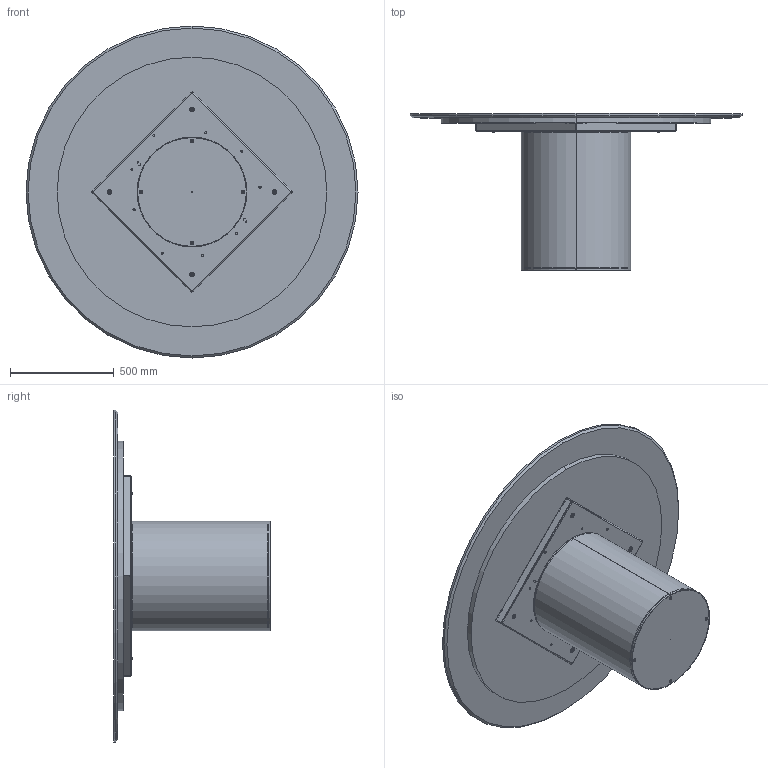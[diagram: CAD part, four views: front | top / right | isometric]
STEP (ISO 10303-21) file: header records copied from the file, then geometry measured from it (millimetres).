
FILE_DESCRIPTION (( 'STEP AP203' ), '1' );
FILE_NAME ('CI05M.STEP', '2024-08-08T06:59:23', ( '' ), ( '' ), 'SwSTEP 2.0', 'SolidWorks 2022', '' );
FILE_SCHEMA (( 'CONFIG_CONTROL_DESIGN' ));
Length unit declared in the file: millimetre
Products named in the file (14): TTAV0801-02-TELAIO UNIVERSALE TONDO-VASSOIO; TTAV0801-02-TELAIO UNIVERSALE TONDO; C2B000000_02-01-ZAVORRA IN FERRO D.530mm; TRU0000X-00-SOTTO PIANO D.XXXXmm_TRU00001 d.130cm; rondella M8_8X24; M8xXXmm_M8x55mm; M0X-00- D. piani marmo_D.1600; TTAV0801 TELAIO UNIVERSALE TONDO-PIASTRINA; M8xXXmm_hex_M8X20mm; C2B000000_01-00-struttura cilindro D.530mm; CI05M; COLLO TELAIO UNIVERSALE TTAV0801 CON FERRAMENTA_MTG TOP LEGNO-MARMO-KING; M0XMXX-00-Piani Rotondi in marmo 2024_1600; C2B000000-03-CILINDRO BASE D.530mm_Normale
Assembly tree (25 placements, depth 4):
  CI05M
    C2B000000-03-CILINDRO BASE D.530mm_Normale
      C2B000000_01-00-struttura cilindro D.530mm
      C2B000000_02-01-ZAVORRA IN FERRO D.530mm
      M8xXXmm_hex_M8X20mm  x4
    COLLO TELAIO UNIVERSALE TTAV0801 CON FERRAMENTA_MTG TOP LEGNO-MARMO-KING
      TTAV0801-02-TELAIO UNIVERSALE TONDO
        TTAV0801-02-TELAIO UNIVERSALE TONDO-VASSOIO
        TTAV0801 TELAIO UNIVERSALE TONDO-PIASTRINA  x4
      rondella M8_8X24  x4
      M8xXXmm_M8x55mm  x4
    M0XMXX-00-Piani Rotondi in marmo 2024_1600
      M0X-00- D. piani marmo_D.1600
      TRU0000X-00-SOTTO PIANO D.XXXXmm_TRU00001 d.130cm
Bounding box: 1600 x 755 x 1600 mm (x, y, z)
Volume: 80446113.2 mm3; surface area: 10994415.1 mm2
Topology: 24 solids, 24 shells, 874 faces, 2166 edges, 1323 vertices
Faces by surface type: plane 382, cylinder 332, cone 90, torus 56, sphere 14
Entity records: 17644 total; most frequent: DIRECTION 2906, CARTESIAN_POINT 2744, ORIENTED_EDGE 2614, EDGE_CURVE 1307, AXIS2_PLACEMENT_3D 1072, VERTEX_POINT 824, VECTOR 762, LINE 762
